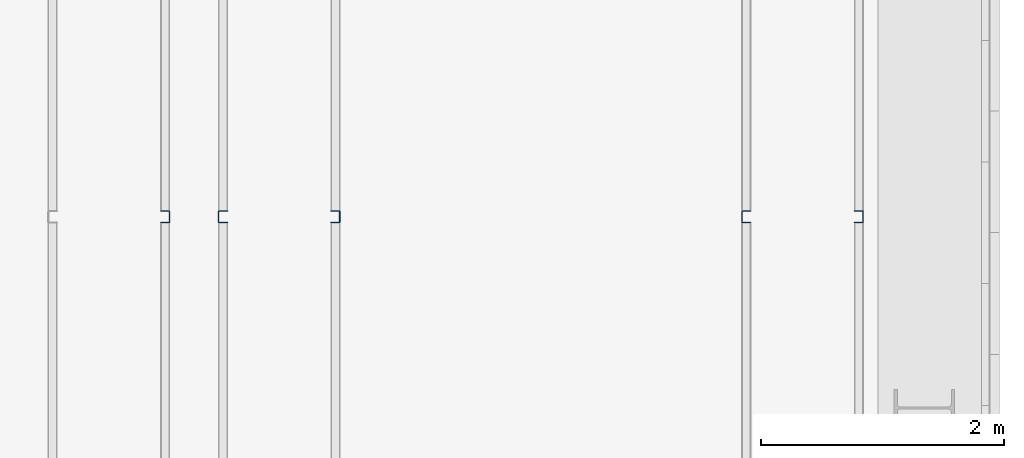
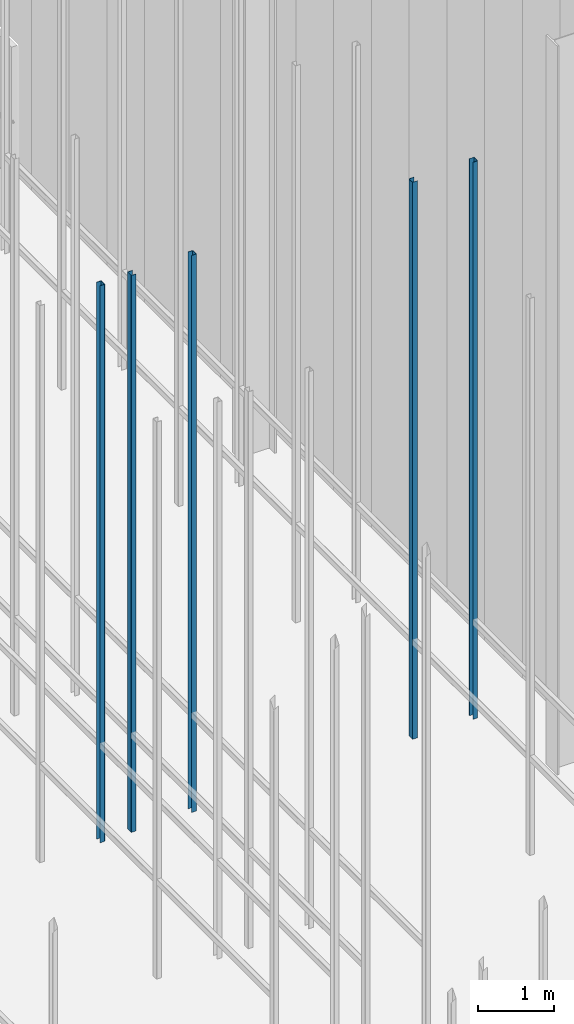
# One storey, part 26 of 302: 5 columns.
"""IFC2X3 building model written with IfcOpenShell, lengths in metres."""

from ifc_helpers import new_model, entity, si_unit, converted_unit, derived_unit, direction, frame, frame_2d, origin, place, context, subcontext, project, spatial, polyline, circle_curve, parameter, trimmed, segment, composite_curve, outline, extrude, source, transform, mapped, material, type_object, type_shapes, element, save


model = new_model("IFC2X3")

# Units and contexts
model_context = context("Model", 3, precision=1e-05, world=origin(), true_north=direction((6.12303176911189e-17, 1.0)))
body_context = subcontext(model_context, "Body", "Model", "MODEL_VIEW")
ifc_project = project(units=[si_unit("LENGTHUNIT", "METRE"), si_unit("AREAUNIT", "SQUARE_METRE"), si_unit("VOLUMEUNIT", "CUBIC_METRE"), converted_unit("PLANEANGLEUNIT", "DEGREE", entity("IfcRatioMeasure", 0.0174532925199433), si_unit("PLANEANGLEUNIT", "RADIAN"), dimensions=[0, 0, 0, 0, 0, 0, 0]), si_unit("MASSUNIT", "GRAM", prefix="KILO"), derived_unit("MASSDENSITYUNIT", [(si_unit("MASSUNIT", "GRAM", prefix="KILO"), 1), (si_unit("LENGTHUNIT", "METRE"), -3)]), derived_unit("MOMENTOFINERTIAUNIT", [(si_unit("LENGTHUNIT", "METRE"), 4)]), si_unit("TIMEUNIT", "SECOND"), si_unit("FREQUENCYUNIT", "HERTZ"), si_unit("THERMODYNAMICTEMPERATUREUNIT", "DEGREE_CELSIUS"), derived_unit("THERMALTRANSMITTANCEUNIT", [(si_unit("MASSUNIT", "GRAM", prefix="KILO"), 1), (si_unit("THERMODYNAMICTEMPERATUREUNIT", "KELVIN"), -1), (si_unit("TIMEUNIT", "SECOND"), -3)]), derived_unit("VOLUMETRICFLOWRATEUNIT", [(si_unit("LENGTHUNIT", "METRE"), 3), (si_unit("TIMEUNIT", "SECOND"), -1)]), si_unit("ELECTRICCURRENTUNIT", "AMPERE"), si_unit("ELECTRICVOLTAGEUNIT", "VOLT"), si_unit("POWERUNIT", "WATT"), si_unit("FORCEUNIT", "NEWTON", prefix="KILO"), si_unit("ILLUMINANCEUNIT", "LUX"), si_unit("LUMINOUSFLUXUNIT", "LUMEN"), si_unit("LUMINOUSINTENSITYUNIT", "CANDELA"), derived_unit("USERDEFINED", [(si_unit("MASSUNIT", "GRAM", prefix="KILO"), -1), (si_unit("LENGTHUNIT", "METRE"), -2), (si_unit("TIMEUNIT", "SECOND"), 3), (si_unit("LUMINOUSFLUXUNIT", "LUMEN"), 1)]), derived_unit("LINEARVELOCITYUNIT", [(si_unit("LENGTHUNIT", "METRE"), 1), (si_unit("TIMEUNIT", "SECOND"), -1)]), si_unit("PRESSUREUNIT", "PASCAL"), derived_unit("USERDEFINED", [(si_unit("LENGTHUNIT", "METRE"), -2), (si_unit("MASSUNIT", "GRAM", prefix="KILO"), 1), (si_unit("TIMEUNIT", "SECOND"), -2)]), derived_unit("LINEARFORCEUNIT", [(si_unit("MASSUNIT", "GRAM", prefix="KILO"), 1), (si_unit("LENGTHUNIT", "METRE"), 1), (si_unit("TIMEUNIT", "SECOND"), -2), (si_unit("LENGTHUNIT", "METRE"), -1)]), derived_unit("PLANARFORCEUNIT", [(si_unit("MASSUNIT", "GRAM", prefix="KILO"), 1), (si_unit("LENGTHUNIT", "METRE"), 1), (si_unit("TIMEUNIT", "SECOND"), -2), (si_unit("LENGTHUNIT", "METRE"), -2)])], contexts=[model_context])

# Site, building, storey
site_placement = place(None, origin())
site = spatial("IfcSite", under=ifc_project, at=site_placement, Name="Default", CompositionType="ELEMENT")
building_placement = place(site_placement, origin())
building = spatial("IfcBuilding", under=site, at=building_placement, CompositionType="ELEMENT")
storey_placement = place(building_placement, frame((0.0, 0.0, -1.3)))
storey = spatial("IfcBuildingStorey", under=building, at=storey_placement, Name="00_EG", CompositionType="ELEMENT", Elevation=-1.3)

# Columns
ifc_material = material(Name="Metall - Baustahl S235")
column_type_1 = type_object("IfcColumnType", Name="Leichter Stahl Schlossschrauben Stütze:C 100", PredefinedType="COLUMN", material=ifc_material)
shared_shape_1 = source(origin(), body_context, "Body", "SweptSolid", [
    extrude(outline(composite_curve([segment(polyline([(-0.0469749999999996, -0.0499999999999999), (0.0214500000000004, -0.0499999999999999)]), True, "CONTINUOUS"), segment(trimmed(circle_curve(frame_2d((0.0214500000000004, -0.0434249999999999), x_axis=(0.0, -1.0)), 0.00657500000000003), [parameter(0.0)], [parameter(89.9999999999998)], True, "PARAMETER"), True, "CONTINUOUS"), segment(polyline([(0.0280250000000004, -0.0434249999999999), (0.0280250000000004, 0.0434250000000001)]), True, "CONTINUOUS"), segment(trimmed(circle_curve(frame_2d((0.0214500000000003, 0.0434250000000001), x_axis=(1.0, 0.0)), 0.0065750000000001), [parameter(0.0)], [parameter(89.9999999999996)], True, "PARAMETER"), True, "CONTINUOUS"), segment(polyline([(0.0214500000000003, 0.0500000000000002), (-0.0469750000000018, 0.0500000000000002)]), True, "CONTINUOUS"), segment(polyline([(-0.0469750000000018, 0.0500000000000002), (-0.0469750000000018, 0.0450000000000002)]), True, "CONTINUOUS"), segment(polyline([(-0.0469750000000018, 0.0450000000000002), (0.0214500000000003, 0.0450000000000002)]), True, "CONTINUOUS"), segment(trimmed(circle_curve(frame_2d((0.0214500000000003, 0.0434249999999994), x_axis=(0.0, 1.0)), 0.00157500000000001), [parameter(269.999999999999)], [parameter(0.0)], True, "PARAMETER"), False, "CONTINUOUS"), segment(polyline([(0.0230250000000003, 0.0434249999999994), (0.0230250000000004, -0.0434249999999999)]), True, "CONTINUOUS"), segment(trimmed(circle_curve(frame_2d((0.0214500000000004, -0.0434249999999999), x_axis=(1.0, 0.0)), 0.00157500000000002), [parameter(270.0)], [parameter(0.0)], True, "PARAMETER"), False, "CONTINUOUS"), segment(polyline([(0.0214500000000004, -0.0449999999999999), (-0.0469749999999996, -0.0449999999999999)]), True, "CONTINUOUS"), segment(polyline([(-0.0469749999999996, -0.0449999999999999), (-0.0469749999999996, -0.0499999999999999)]), True, "CONTINUOUS")], self_intersect=False)), frame((0.0499999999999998, 0.0280250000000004, -0.0300000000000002), z_axis=(0.0, 0.0, 1.0), x_axis=(0.0, -1.0, 0.0)), (0.0, 0.0, 1.0), 9.0),
])
type_shapes(column_type_1, [shared_shape_1])
for number, where, z_axis, x_axis in (
    (1, (-183.690111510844, 33.348088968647, 1.3), (0.0, 0.0, 1.0), (0.0, -1.0, 0.0)),
    (2, (-179.390111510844, 33.348088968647, 1.3), (0.0, 0.0, 1.0), (0.0, -1.0, 0.0)),
):
    element("IfcColumn", number, at=place(storey_placement, frame(where, z_axis=z_axis, x_axis=x_axis)), inside=storey, type_object=column_type_1, material=ifc_material, Name="Leichter Stahl Schlossschrauben Stütze:C 100", ObjectType="Leichter Stahl Schlossschrauben Stütze:C 100", context=body_context, shape_type="MappedRepresentation", body=[
        mapped(shared_shape_1, transform((0.0, 0.0, 0.0), scale=1.0)),
    ])
column_type_2 = type_object("IfcColumnType", Name="Leichter Stahl Schlossschrauben Stütze:C 100", PredefinedType="COLUMN", material=ifc_material)
shared_shape_2 = source(origin(), body_context, "Body", "SweptSolid", [
    extrude(outline(composite_curve([segment(polyline([(-0.0214500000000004, -0.0499999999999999), (0.0469749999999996, -0.0499999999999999)]), True, "CONTINUOUS"), segment(polyline([(0.0469749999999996, -0.0499999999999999), (0.0469749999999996, -0.0449999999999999)]), True, "CONTINUOUS"), segment(polyline([(0.0469749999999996, -0.0449999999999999), (-0.0214500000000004, -0.045)]), True, "CONTINUOUS"), segment(trimmed(circle_curve(frame_2d((-0.0214500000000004, -0.043425), x_axis=(0.0, -1.0)), 0.00157500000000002), [parameter(270.0)], [parameter(0.0)], True, "PARAMETER"), False, "CONTINUOUS"), segment(polyline([(-0.0230250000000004, -0.0434249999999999), (-0.0230250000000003, 0.0434249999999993)]), True, "CONTINUOUS"), segment(trimmed(circle_curve(frame_2d((-0.0214500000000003, 0.0434249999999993), x_axis=(-1.0, 0.0)), 0.00157500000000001), [parameter(269.999999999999)], [parameter(0.0)], True, "PARAMETER"), False, "CONTINUOUS"), segment(polyline([(-0.0214500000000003, 0.0450000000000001), (0.0469750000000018, 0.0450000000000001)]), True, "CONTINUOUS"), segment(polyline([(0.0469750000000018, 0.0450000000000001), (0.0469750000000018, 0.0500000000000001)]), True, "CONTINUOUS"), segment(polyline([(0.0469750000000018, 0.0500000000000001), (-0.0214500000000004, 0.0500000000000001)]), True, "CONTINUOUS"), segment(trimmed(circle_curve(frame_2d((-0.0214500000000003, 0.043425), x_axis=(0.0, 1.0)), 0.0065750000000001), [parameter(0.0)], [parameter(89.9999999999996)], True, "PARAMETER"), True, "CONTINUOUS"), segment(polyline([(-0.0280250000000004, 0.043425), (-0.0280250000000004, -0.043425)]), True, "CONTINUOUS"), segment(trimmed(circle_curve(frame_2d((-0.0214500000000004, -0.0434249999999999), x_axis=(-1.0, 0.0)), 0.00657500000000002), [parameter(0.0)], [parameter(89.9999999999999)], True, "PARAMETER"), True, "CONTINUOUS")], self_intersect=False)), frame((0.0499999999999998, -0.0280250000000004, -0.0300000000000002), z_axis=(0.0, 0.0, 1.0), x_axis=(0.0, -1.0, 0.0)), (0.0, 0.0, 1.0), 9.0),
])
type_shapes(column_type_2, [shared_shape_2])
for number, where, z_axis, x_axis in (
    (3, (-184.090111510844, 33.348088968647, 1.3), (0.0, 0.0, 1.0), (0.0, -1.0, 0.0)),
    (4, (-182.690111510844, 33.348088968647, 1.3), (0.0, 0.0, 1.0), (0.0, -1.0, 0.0)),
    (5, (-178.390111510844, 33.348088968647, 1.3), (0.0, 0.0, 1.0), (0.0, -1.0, 0.0)),
):
    element("IfcColumn", number, at=place(storey_placement, frame(where, z_axis=z_axis, x_axis=x_axis)), inside=storey, type_object=column_type_2, material=ifc_material, Name="Leichter Stahl Schlossschrauben Stütze:C 100", ObjectType="Leichter Stahl Schlossschrauben Stütze:C 100", context=body_context, shape_type="MappedRepresentation", body=[
        mapped(shared_shape_2, transform((0.0, 0.0, 0.0), scale=1.0)),
    ])

save(model, "model.ifc")
